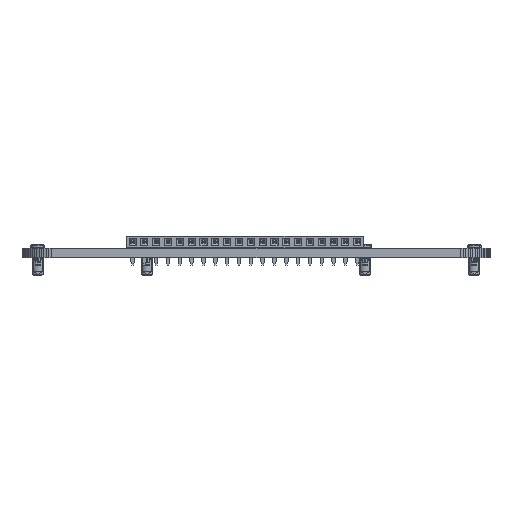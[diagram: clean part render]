
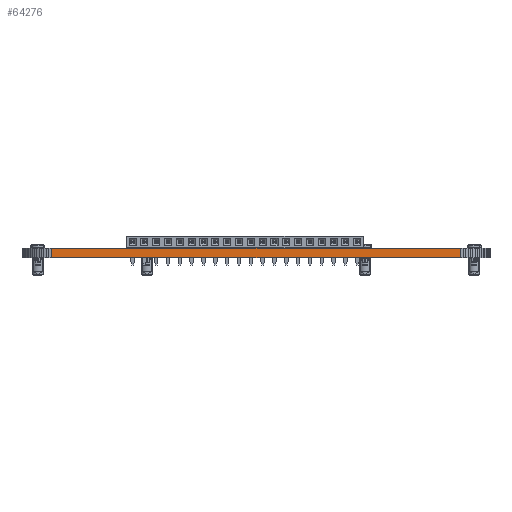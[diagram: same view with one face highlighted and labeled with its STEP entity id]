
A CAD part, left-side view. The second image highlights one B-rep face of the part: STEP entity #64276.
In plain terms, the highlighted planar face has unit normal (-1, 0, 0).
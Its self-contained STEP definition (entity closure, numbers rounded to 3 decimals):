
#56387 = PLANE('',#56388);
#56388 = AXIS2_PLACEMENT_3D('',#56389,#56390,#56391);
#56389 = CARTESIAN_POINT('',(150.215,-91.555,1.6));
#56390 = DIRECTION('',(-0.,-0.,-1.));
#56391 = DIRECTION('',(-1.,0.,0.));
#56441 = PLANE('',#56442);
#56442 = AXIS2_PLACEMENT_3D('',#56443,#56444,#56445);
#56443 = CARTESIAN_POINT('',(150.215,-91.555,0.));
#56444 = DIRECTION('',(-0.,-0.,-1.));
#56445 = DIRECTION('',(-1.,0.,0.));
#58062 = VERTEX_POINT('',#58063);
#58063 = CARTESIAN_POINT('',(26.84,-126.13,0.));
#58077 = PLANE('',#58078);
#58078 = AXIS2_PLACEMENT_3D('',#58079,#58080,#58081);
#58079 = CARTESIAN_POINT('',(26.859,-126.566,0.));
#58080 = DIRECTION('',(-0.999,-0.044,0.));
#58081 = DIRECTION('',(-0.044,0.999,0.));
#58089 = EDGE_CURVE('',#58062,#58090,#58092,.T.);
#58090 = VERTEX_POINT('',#58091);
#58091 = CARTESIAN_POINT('',(26.84,-56.98,0.));
#58092 = SURFACE_CURVE('',#58093,(#58097,#58104),.PCURVE_S1.);
#58093 = LINE('',#58094,#58095);
#58094 = CARTESIAN_POINT('',(26.84,-126.13,0.));
#58095 = VECTOR('',#58096,1.);
#58096 = DIRECTION('',(0.,1.,0.));
#58097 = PCURVE('',#56441,#58098);
#58098 = DEFINITIONAL_REPRESENTATION('',(#58099),#58103);
#58099 = LINE('',#58100,#58101);
#58100 = CARTESIAN_POINT('',(123.375,-34.575));
#58101 = VECTOR('',#58102,1.);
#58102 = DIRECTION('',(0.,1.));
#58103 = ( GEOMETRIC_REPRESENTATION_CONTEXT(2) 
PARAMETRIC_REPRESENTATION_CONTEXT() REPRESENTATION_CONTEXT('2D SPACE',''
  ) );
#58104 = PCURVE('',#58105,#58110);
#58105 = PLANE('',#58106);
#58106 = AXIS2_PLACEMENT_3D('',#58107,#58108,#58109);
#58107 = CARTESIAN_POINT('',(26.84,-126.13,0.));
#58108 = DIRECTION('',(-1.,0.,0.));
#58109 = DIRECTION('',(0.,1.,0.));
#58110 = DEFINITIONAL_REPRESENTATION('',(#58111),#58115);
#58111 = LINE('',#58112,#58113);
#58112 = CARTESIAN_POINT('',(0.,0.));
#58113 = VECTOR('',#58114,1.);
#58114 = DIRECTION('',(1.,0.));
#58115 = ( GEOMETRIC_REPRESENTATION_CONTEXT(2) 
PARAMETRIC_REPRESENTATION_CONTEXT() REPRESENTATION_CONTEXT('2D SPACE',''
  ) );
#58133 = PLANE('',#58134);
#58134 = AXIS2_PLACEMENT_3D('',#58135,#58136,#58137);
#58135 = CARTESIAN_POINT('',(26.84,-56.98,0.));
#58136 = DIRECTION('',(-0.999,0.044,0.));
#58137 = DIRECTION('',(0.044,0.999,0.));
#61420 = VERTEX_POINT('',#61421);
#61421 = CARTESIAN_POINT('',(26.84,-126.13,1.6));
#61442 = EDGE_CURVE('',#61420,#61443,#61445,.T.);
#61443 = VERTEX_POINT('',#61444);
#61444 = CARTESIAN_POINT('',(26.84,-56.98,1.6));
#61445 = SURFACE_CURVE('',#61446,(#61450,#61457),.PCURVE_S1.);
#61446 = LINE('',#61447,#61448);
#61447 = CARTESIAN_POINT('',(26.84,-126.13,1.6));
#61448 = VECTOR('',#61449,1.);
#61449 = DIRECTION('',(0.,1.,0.));
#61450 = PCURVE('',#56387,#61451);
#61451 = DEFINITIONAL_REPRESENTATION('',(#61452),#61456);
#61452 = LINE('',#61453,#61454);
#61453 = CARTESIAN_POINT('',(123.375,-34.575));
#61454 = VECTOR('',#61455,1.);
#61455 = DIRECTION('',(0.,1.));
#61456 = ( GEOMETRIC_REPRESENTATION_CONTEXT(2) 
PARAMETRIC_REPRESENTATION_CONTEXT() REPRESENTATION_CONTEXT('2D SPACE',''
  ) );
#61457 = PCURVE('',#58105,#61458);
#61458 = DEFINITIONAL_REPRESENTATION('',(#61459),#61463);
#61459 = LINE('',#61460,#61461);
#61460 = CARTESIAN_POINT('',(0.,-1.6));
#61461 = VECTOR('',#61462,1.);
#61462 = DIRECTION('',(1.,0.));
#61463 = ( GEOMETRIC_REPRESENTATION_CONTEXT(2) 
PARAMETRIC_REPRESENTATION_CONTEXT() REPRESENTATION_CONTEXT('2D SPACE',''
  ) );
#64226 = EDGE_CURVE('',#58090,#61443,#64227,.T.);
#64227 = SURFACE_CURVE('',#64228,(#64232,#64239),.PCURVE_S1.);
#64228 = LINE('',#64229,#64230);
#64229 = CARTESIAN_POINT('',(26.84,-56.98,0.));
#64230 = VECTOR('',#64231,1.);
#64231 = DIRECTION('',(0.,0.,1.));
#64232 = PCURVE('',#58133,#64233);
#64233 = DEFINITIONAL_REPRESENTATION('',(#64234),#64238);
#64234 = LINE('',#64235,#64236);
#64235 = CARTESIAN_POINT('',(0.,0.));
#64236 = VECTOR('',#64237,1.);
#64237 = DIRECTION('',(0.,-1.));
#64238 = ( GEOMETRIC_REPRESENTATION_CONTEXT(2) 
PARAMETRIC_REPRESENTATION_CONTEXT() REPRESENTATION_CONTEXT('2D SPACE',''
  ) );
#64239 = PCURVE('',#58105,#64240);
#64240 = DEFINITIONAL_REPRESENTATION('',(#64241),#64245);
#64241 = LINE('',#64242,#64243);
#64242 = CARTESIAN_POINT('',(69.15,0.));
#64243 = VECTOR('',#64244,1.);
#64244 = DIRECTION('',(0.,-1.));
#64245 = ( GEOMETRIC_REPRESENTATION_CONTEXT(2) 
PARAMETRIC_REPRESENTATION_CONTEXT() REPRESENTATION_CONTEXT('2D SPACE',''
  ) );
#64276 = ADVANCED_FACE('',(#64277),#58105,.T.);
#64277 = FACE_BOUND('',#64278,.T.);
#64278 = EDGE_LOOP('',(#64279,#64300,#64301,#64302));
#64279 = ORIENTED_EDGE('',*,*,#64280,.T.);
#64280 = EDGE_CURVE('',#58062,#61420,#64281,.T.);
#64281 = SURFACE_CURVE('',#64282,(#64286,#64293),.PCURVE_S1.);
#64282 = LINE('',#64283,#64284);
#64283 = CARTESIAN_POINT('',(26.84,-126.13,0.));
#64284 = VECTOR('',#64285,1.);
#64285 = DIRECTION('',(0.,0.,1.));
#64286 = PCURVE('',#58105,#64287);
#64287 = DEFINITIONAL_REPRESENTATION('',(#64288),#64292);
#64288 = LINE('',#64289,#64290);
#64289 = CARTESIAN_POINT('',(0.,0.));
#64290 = VECTOR('',#64291,1.);
#64291 = DIRECTION('',(0.,-1.));
#64292 = ( GEOMETRIC_REPRESENTATION_CONTEXT(2) 
PARAMETRIC_REPRESENTATION_CONTEXT() REPRESENTATION_CONTEXT('2D SPACE',''
  ) );
#64293 = PCURVE('',#58077,#64294);
#64294 = DEFINITIONAL_REPRESENTATION('',(#64295),#64299);
#64295 = LINE('',#64296,#64297);
#64296 = CARTESIAN_POINT('',(0.436,0.));
#64297 = VECTOR('',#64298,1.);
#64298 = DIRECTION('',(0.,-1.));
#64299 = ( GEOMETRIC_REPRESENTATION_CONTEXT(2) 
PARAMETRIC_REPRESENTATION_CONTEXT() REPRESENTATION_CONTEXT('2D SPACE',''
  ) );
#64300 = ORIENTED_EDGE('',*,*,#61442,.T.);
#64301 = ORIENTED_EDGE('',*,*,#64226,.F.);
#64302 = ORIENTED_EDGE('',*,*,#58089,.F.);
